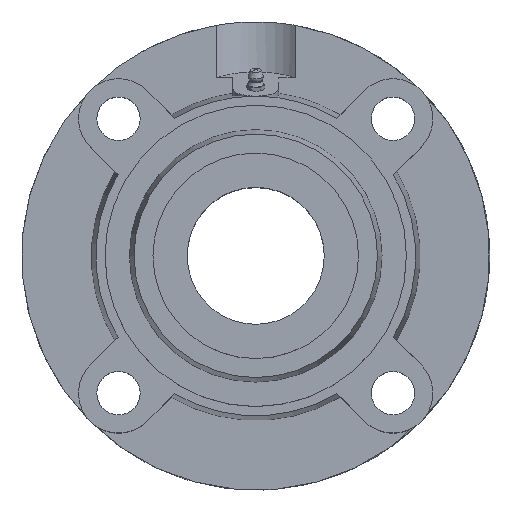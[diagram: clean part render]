
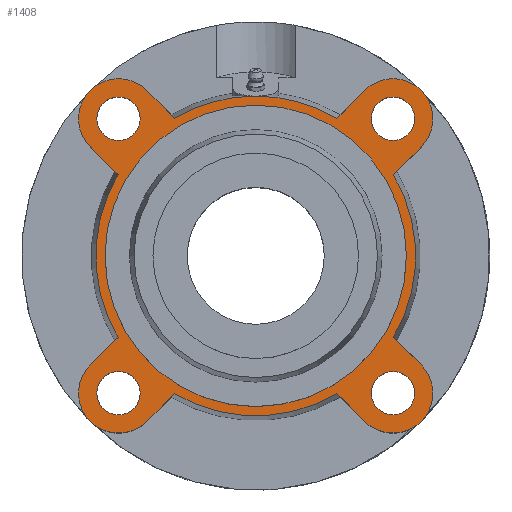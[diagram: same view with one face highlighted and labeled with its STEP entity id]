
A CAD part, top view. The second image highlights one B-rep face of the part: STEP entity #1408.
In plain terms, the highlighted planar face has unit normal (0, 0, 1).
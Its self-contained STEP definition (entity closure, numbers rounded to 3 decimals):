
#140=CARTESIAN_POINT('',(0.0,66.0,22.));
#141=VERTEX_POINT('',#140);
#142=CARTESIAN_POINT('',(0.0,0.,22.));
#143=DIRECTION('',(0.0,0.0,-1.0));
#144=DIRECTION('',(0.0,1.0,0.0));
#145=AXIS2_PLACEMENT_3D('',#142,#143,#144);
#146=CIRCLE('',#145,66.0);
#147=EDGE_CURVE('',#141,#141,#146,.T.);
#229=CARTESIAN_POINT('',(-50.604,-60.104,22.));
#230=VERTEX_POINT('',#229);
#231=CARTESIAN_POINT('',(-60.104,-60.104,22.));
#232=DIRECTION('',(0.0,0.0,-1.0));
#233=DIRECTION('',(1.0,0.0,0.0));
#234=AXIS2_PLACEMENT_3D('',#231,#232,#233);
#235=CIRCLE('',#234,9.5);
#236=EDGE_CURVE('',#230,#230,#235,.T.);
#257=CARTESIAN_POINT('',(-50.604,60.104,22.));
#258=VERTEX_POINT('',#257);
#259=CARTESIAN_POINT('',(-60.104,60.104,22.));
#260=DIRECTION('',(0.0,0.0,-1.0));
#261=DIRECTION('',(1.0,0.0,0.0));
#262=AXIS2_PLACEMENT_3D('',#259,#260,#261);
#263=CIRCLE('',#262,9.5);
#264=EDGE_CURVE('',#258,#258,#263,.T.);
#285=CARTESIAN_POINT('',(69.604,60.104,22.));
#286=VERTEX_POINT('',#285);
#287=CARTESIAN_POINT('',(60.104,60.104,22.));
#288=DIRECTION('',(0.0,0.0,-1.0));
#289=DIRECTION('',(1.0,0.0,0.0));
#290=AXIS2_PLACEMENT_3D('',#287,#288,#289);
#291=CIRCLE('',#290,9.5);
#292=EDGE_CURVE('',#286,#286,#291,.T.);
#313=CARTESIAN_POINT('',(69.604,-60.104,22.));
#314=VERTEX_POINT('',#313);
#315=CARTESIAN_POINT('',(60.104,-60.104,22.));
#316=DIRECTION('',(0.0,0.0,-1.0));
#317=DIRECTION('',(1.0,0.0,0.0));
#318=AXIS2_PLACEMENT_3D('',#315,#316,#317);
#319=CIRCLE('',#318,9.5);
#320=EDGE_CURVE('',#314,#314,#319,.T.);
#706=CARTESIAN_POINT('',(0.,70.,22.0));
#707=VERTEX_POINT('',#706);
#864=CARTESIAN_POINT('',(-35.551,60.3,22.));
#865=VERTEX_POINT('',#864);
#879=CARTESIAN_POINT('',(0.0,0.,22.));
#880=DIRECTION('',(0.0,0.0,1.0));
#881=DIRECTION('',(0.0,-1.0,0.0));
#882=AXIS2_PLACEMENT_3D('',#879,#880,#881);
#883=CIRCLE('',#882,70.);
#884=EDGE_CURVE('',#707,#865,#883,.T.);
#894=CARTESIAN_POINT('',(-35.551,-60.3,22.));
#895=VERTEX_POINT('',#894);
#911=CARTESIAN_POINT('',(-47.73,-72.478,22.));
#912=VERTEX_POINT('',#911);
#913=CARTESIAN_POINT('',(-35.551,-60.3,22.));
#914=DIRECTION('',(-0.707,-0.707,0.));
#915=VECTOR('',#914,17.223);
#916=LINE('',#913,#915);
#917=EDGE_CURVE('',#895,#912,#916,.T.);
#941=CARTESIAN_POINT('',(-60.3,35.551,22.));
#942=VERTEX_POINT('',#941);
#958=CARTESIAN_POINT('',(-72.478,47.73,22.));
#959=VERTEX_POINT('',#958);
#960=CARTESIAN_POINT('',(-60.3,35.551,22.));
#961=DIRECTION('',(-0.707,0.707,0.));
#962=VECTOR('',#961,17.223);
#963=LINE('',#960,#962);
#964=EDGE_CURVE('',#942,#959,#963,.T.);
#988=CARTESIAN_POINT('',(60.3,-35.551,22.));
#989=VERTEX_POINT('',#988);
#1005=CARTESIAN_POINT('',(72.478,-47.73,22.));
#1006=VERTEX_POINT('',#1005);
#1007=CARTESIAN_POINT('',(60.3,-35.551,22.));
#1008=DIRECTION('',(0.707,-0.707,0.));
#1009=VECTOR('',#1008,17.223);
#1010=LINE('',#1007,#1009);
#1011=EDGE_CURVE('',#989,#1006,#1010,.T.);
#1035=CARTESIAN_POINT('',(35.551,60.3,22.));
#1036=VERTEX_POINT('',#1035);
#1050=CARTESIAN_POINT('',(47.73,72.478,22.));
#1051=VERTEX_POINT('',#1050);
#1052=CARTESIAN_POINT('',(35.551,60.3,22.));
#1053=DIRECTION('',(0.707,0.707,0.));
#1054=VECTOR('',#1053,17.223);
#1055=LINE('',#1052,#1054);
#1056=EDGE_CURVE('',#1036,#1051,#1055,.T.);
#1075=CARTESIAN_POINT('',(60.3,35.551,22.));
#1076=VERTEX_POINT('',#1075);
#1098=CARTESIAN_POINT('',(72.478,47.73,22.));
#1099=VERTEX_POINT('',#1098);
#1106=CARTESIAN_POINT('',(72.478,47.73,22.));
#1107=DIRECTION('',(-0.707,-0.707,0.));
#1108=VECTOR('',#1107,17.223);
#1109=LINE('',#1106,#1108);
#1110=EDGE_CURVE('',#1099,#1076,#1109,.T.);
#1120=CARTESIAN_POINT('',(-72.478,-47.73,22.));
#1121=VERTEX_POINT('',#1120);
#1122=CARTESIAN_POINT('',(-60.104,-60.104,22.0));
#1123=DIRECTION('',(0.0,0.0,-1.0));
#1124=DIRECTION('',(-0.707,0.707,0.0));
#1125=AXIS2_PLACEMENT_3D('',#1122,#1123,#1124);
#1126=CIRCLE('',#1125,17.5);
#1127=EDGE_CURVE('',#912,#1121,#1126,.T.);
#1162=CARTESIAN_POINT('',(-60.3,-35.551,22.));
#1163=VERTEX_POINT('',#1162);
#1184=CARTESIAN_POINT('',(-72.478,-47.73,22.));
#1185=DIRECTION('',(0.707,0.707,0.));
#1186=VECTOR('',#1185,17.223);
#1187=LINE('',#1184,#1186);
#1188=EDGE_CURVE('',#1121,#1163,#1187,.T.);
#1198=CARTESIAN_POINT('',(-47.73,72.478,22.));
#1199=VERTEX_POINT('',#1198);
#1200=CARTESIAN_POINT('',(-60.104,60.104,22.0));
#1201=DIRECTION('',(0.0,0.0,-1.0));
#1202=DIRECTION('',(0.707,0.707,0.0));
#1203=AXIS2_PLACEMENT_3D('',#1200,#1201,#1202);
#1204=CIRCLE('',#1203,17.5);
#1205=EDGE_CURVE('',#959,#1199,#1204,.T.);
#1233=CARTESIAN_POINT('',(-47.73,72.478,22.));
#1234=DIRECTION('',(0.707,-0.707,0.));
#1235=VECTOR('',#1234,17.223);
#1236=LINE('',#1233,#1235);
#1237=EDGE_CURVE('',#1199,#865,#1236,.T.);
#1247=CARTESIAN_POINT('',(47.73,-72.478,22.));
#1248=VERTEX_POINT('',#1247);
#1249=CARTESIAN_POINT('',(60.104,-60.104,22.0));
#1250=DIRECTION('',(0.0,0.0,-1.0));
#1251=DIRECTION('',(-0.707,-0.707,0.0));
#1252=AXIS2_PLACEMENT_3D('',#1249,#1250,#1251);
#1253=CIRCLE('',#1252,17.5);
#1254=EDGE_CURVE('',#1006,#1248,#1253,.T.);
#1289=CARTESIAN_POINT('',(35.551,-60.3,22.));
#1290=VERTEX_POINT('',#1289);
#1311=CARTESIAN_POINT('',(47.73,-72.478,22.));
#1312=DIRECTION('',(-0.707,0.707,0.));
#1313=VECTOR('',#1312,17.223);
#1314=LINE('',#1311,#1313);
#1315=EDGE_CURVE('',#1248,#1290,#1314,.T.);
#1325=CARTESIAN_POINT('',(60.104,60.104,22.0));
#1326=DIRECTION('',(0.0,0.0,-1.0));
#1327=DIRECTION('',(0.707,-0.707,0.0));
#1328=AXIS2_PLACEMENT_3D('',#1325,#1326,#1327);
#1329=CIRCLE('',#1328,17.5);
#1330=EDGE_CURVE('',#1051,#1099,#1329,.T.);
#1345=CARTESIAN_POINT('',(0.0,-35.0,22.));
#1346=DIRECTION('',(0.0,0.0,1.0));
#1347=DIRECTION('',(1.0,0.0,0.0));
#1348=AXIS2_PLACEMENT_3D('',#1345,#1346,#1347);
#1349=PLANE('',#1348);
#1350=CARTESIAN_POINT('',(0.0,0.,22.));
#1351=DIRECTION('',(0.0,0.0,1.0));
#1352=DIRECTION('',(0.0,-1.0,0.0));
#1353=AXIS2_PLACEMENT_3D('',#1350,#1351,#1352);
#1354=CIRCLE('',#1353,70.);
#1355=EDGE_CURVE('',#895,#1290,#1354,.T.);
#1356=ORIENTED_EDGE('',*,*,#1355,.T.);
#1357=ORIENTED_EDGE('',*,*,#1315,.F.);
#1358=ORIENTED_EDGE('',*,*,#1254,.F.);
#1359=ORIENTED_EDGE('',*,*,#1011,.F.);
#1360=CARTESIAN_POINT('',(0.0,0.,22.));
#1361=DIRECTION('',(0.0,0.0,1.0));
#1362=DIRECTION('',(0.0,-1.0,0.0));
#1363=AXIS2_PLACEMENT_3D('',#1360,#1361,#1362);
#1364=CIRCLE('',#1363,70.);
#1365=EDGE_CURVE('',#989,#1076,#1364,.T.);
#1366=ORIENTED_EDGE('',*,*,#1365,.T.);
#1367=ORIENTED_EDGE('',*,*,#1110,.F.);
#1368=ORIENTED_EDGE('',*,*,#1330,.F.);
#1369=ORIENTED_EDGE('',*,*,#1056,.F.);
#1370=CARTESIAN_POINT('',(0.0,0.,22.));
#1371=DIRECTION('',(0.0,0.0,1.0));
#1372=DIRECTION('',(0.0,-1.0,0.0));
#1373=AXIS2_PLACEMENT_3D('',#1370,#1371,#1372);
#1374=CIRCLE('',#1373,70.);
#1375=EDGE_CURVE('',#1036,#707,#1374,.T.);
#1376=ORIENTED_EDGE('',*,*,#1375,.T.);
#1377=ORIENTED_EDGE('',*,*,#884,.T.);
#1378=ORIENTED_EDGE('',*,*,#1237,.F.);
#1379=ORIENTED_EDGE('',*,*,#1205,.F.);
#1380=ORIENTED_EDGE('',*,*,#964,.F.);
#1381=CARTESIAN_POINT('',(0.0,0.,22.));
#1382=DIRECTION('',(0.0,0.0,1.0));
#1383=DIRECTION('',(0.0,-1.0,0.0));
#1384=AXIS2_PLACEMENT_3D('',#1381,#1382,#1383);
#1385=CIRCLE('',#1384,70.);
#1386=EDGE_CURVE('',#942,#1163,#1385,.T.);
#1387=ORIENTED_EDGE('',*,*,#1386,.T.);
#1388=ORIENTED_EDGE('',*,*,#1188,.F.);
#1389=ORIENTED_EDGE('',*,*,#1127,.F.);
#1390=ORIENTED_EDGE('',*,*,#917,.F.);
#1391=EDGE_LOOP('',(#1356,#1357,#1358,#1359,#1366,#1367,#1368,#1369,#1376,#1377,#1378,#1379,#1380,#1387,#1388,#1389,#1390));
#1392=FACE_OUTER_BOUND('',#1391,.T.);
#1393=ORIENTED_EDGE('',*,*,#147,.T.);
#1394=EDGE_LOOP('',(#1393));
#1395=FACE_BOUND('',#1394,.T.);
#1396=ORIENTED_EDGE('',*,*,#236,.T.);
#1397=EDGE_LOOP('',(#1396));
#1398=FACE_BOUND('',#1397,.T.);
#1399=ORIENTED_EDGE('',*,*,#264,.T.);
#1400=EDGE_LOOP('',(#1399));
#1401=FACE_BOUND('',#1400,.T.);
#1402=ORIENTED_EDGE('',*,*,#292,.T.);
#1403=EDGE_LOOP('',(#1402));
#1404=FACE_BOUND('',#1403,.T.);
#1405=ORIENTED_EDGE('',*,*,#320,.T.);
#1406=EDGE_LOOP('',(#1405));
#1407=FACE_BOUND('',#1406,.T.);
#1408=ADVANCED_FACE('',(#1392,#1395,#1398,#1401,#1404,#1407),#1349,.T.);
